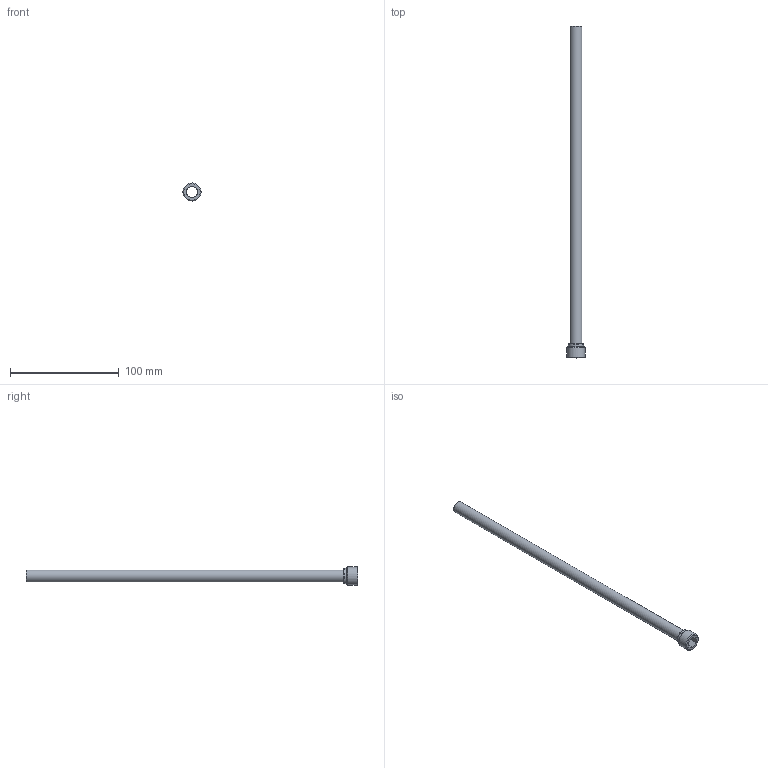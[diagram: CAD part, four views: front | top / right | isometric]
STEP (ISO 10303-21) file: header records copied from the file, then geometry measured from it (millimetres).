
FILE_DESCRIPTION(/* description */ (''),/* implementation_level */ '2;1');
FILE_NAME(/* name */ 'C:/Users/drich/Desktop/PT38-437-12 v1.step',/* time_stamp */ '2019-12-27T15:57:08-06:00',/* author */ (''),/* organization */ (''),/* preprocessor_version */ 'ST-DEVELOPER v18',/* originating_system */ 'Autodesk Translation Framework v8.12.0.6',/* authorisation */ '');
FILE_SCHEMA (('AUTOMOTIVE_DESIGN { 1 0 10303 214 3 1 1 }'));
Length unit declared in the file: inch
Products named in the file (1): PT38-437-12
Bounding box: 16.54 x 304.8 x 16.54 mm (x, y, z)
Volume: 5090 mm3; surface area: 20456.7 mm2
Topology: 1 solids, 1 shells, 30 faces, 71 edges, 45 vertices
Faces by surface type: plane 22, cylinder 4, torus 2, cone 2
Full cylindrical faces by diameter (mm): 10.084 x1, 10.82 x1, 13.868 x1, 16.537 x1
Entity records: 913 total; most frequent: DIRECTION 168, CARTESIAN_POINT 147, ORIENTED_EDGE 142, EDGE_CURVE 71, AXIS2_PLACEMENT_3D 66, VERTEX_POINT 45, LINE 36, VECTOR 36
